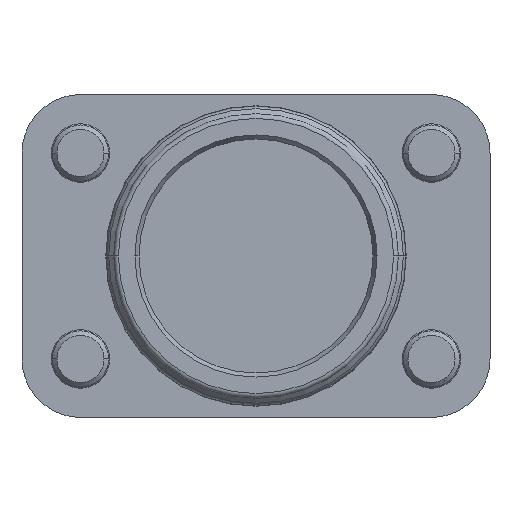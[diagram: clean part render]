
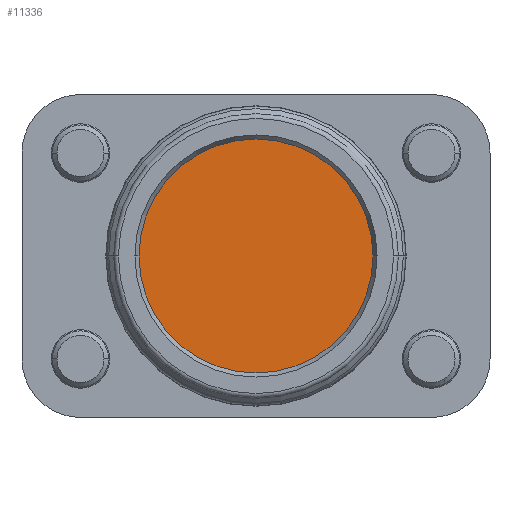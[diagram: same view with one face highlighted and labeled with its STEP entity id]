
A CAD part, front view. The second image highlights one B-rep face of the part: STEP entity #11336.
In plain terms, the highlighted planar face has unit normal (0, -1, 0).
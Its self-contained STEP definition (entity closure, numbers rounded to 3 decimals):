
#872 = AXIS2_PLACEMENT_3D ( 'NONE', #1826, #11949, #3875 ) ;
#1212 = EDGE_LOOP ( 'NONE', ( #11973, #11363 ) ) ;
#1235 = AXIS2_PLACEMENT_3D ( 'NONE', #1753, #8933, #3888 ) ;
#1753 = CARTESIAN_POINT ( 'NONE',  ( 0., 0., 0. ) ) ;
#1826 = CARTESIAN_POINT ( 'NONE',  ( 0., 0., 0. ) ) ;
#2715 = CARTESIAN_POINT ( 'NONE',  ( 0., 0., 25. ) ) ;
#3875 = DIRECTION ( 'NONE',  ( 0., 0., -1. ) ) ;
#3888 = DIRECTION ( 'NONE',  ( 0., 0., -1. ) ) ;
#4332 = CIRCLE ( 'NONE', #872, 25. ) ;
#5298 = EDGE_CURVE ( 'NONE', #7617, #11991, #9205, .T. ) ;
#5322 = FACE_OUTER_BOUND ( 'NONE', #1212, .T. ) ;
#5452 = DIRECTION ( 'NONE',  ( 0., 0., -1. ) ) ;
#5778 = EDGE_CURVE ( 'NONE', #11991, #7617, #4332, .T. ) ;
#7617 = VERTEX_POINT ( 'NONE', #2715 ) ;
#8933 = DIRECTION ( 'NONE',  ( 0., -1., 0. ) ) ;
#8958 = CARTESIAN_POINT ( 'NONE',  ( 0., 0., -25. ) ) ;
#9205 = CIRCLE ( 'NONE', #1235, 25. ) ;
#9413 = CARTESIAN_POINT ( 'NONE',  ( 0., 0., 0. ) ) ;
#9763 = AXIS2_PLACEMENT_3D ( 'NONE', #9413, #11403, #5452 ) ;
#10346 = PLANE ( 'NONE',  #9763 ) ;
#11336 = ADVANCED_FACE ( 'NONE', ( #5322 ), #10346, .T. ) ;
#11363 = ORIENTED_EDGE ( 'NONE', *, *, #5298, .T. ) ;
#11403 = DIRECTION ( 'NONE',  ( 0., -1., 0. ) ) ;
#11949 = DIRECTION ( 'NONE',  ( 0., -1., 0. ) ) ;
#11973 = ORIENTED_EDGE ( 'NONE', *, *, #5778, .T. ) ;
#11991 = VERTEX_POINT ( 'NONE', #8958 ) ;
